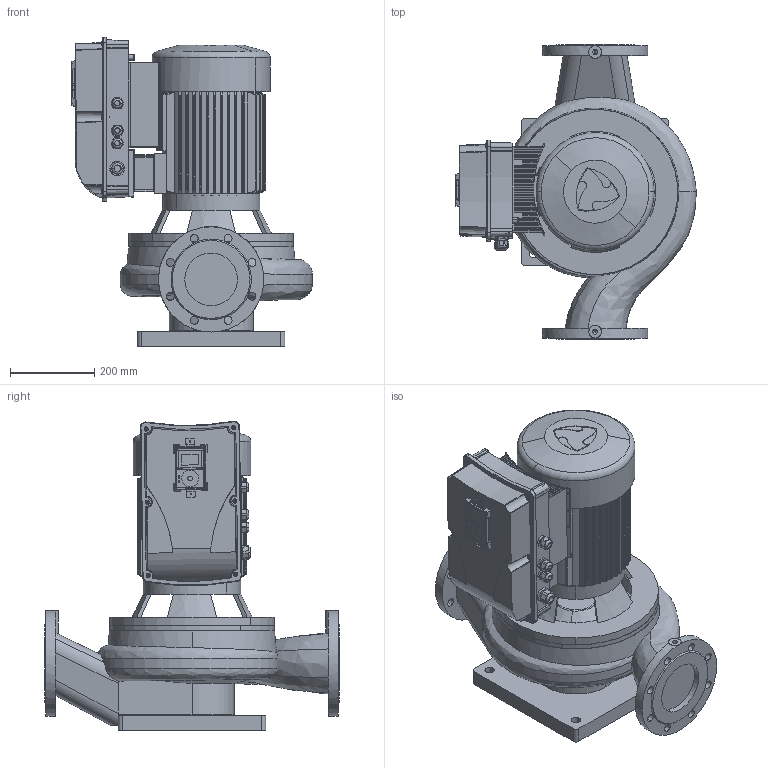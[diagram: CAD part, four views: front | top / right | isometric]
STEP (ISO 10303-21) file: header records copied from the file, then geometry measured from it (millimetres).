
FILE_DESCRIPTION(('STEP AP214'),'1');
FILE_NAME('export.stp','2018-06-01T13:33:37',(' '),(' '),'Spatial InterOp 3D',' ',' ');
FILE_SCHEMA(('AUTOMOTIVE_DESIGN { 1 0 10303 214 1 1 1 1 }'));
Length unit declared in the file: millimetre
Products named in the file (27): W_ALP11284550KPVS; V_EKF31OKN132133; V_TLL100SAL1202; V_PPALP1128; PP_ALP1128_kesken; Tukijalka_ALP1128; V_MKP133_VS; RU_OKN_133; TSUOJA_OKN_132_133; Vacon_MS3; P101415; P101409; P101462; Piirilevyn_pala; A2004-2-4-LP-N-R; P101414; Vacon_Display; CAD-3D-VACON-M100-Display.sldasm; Vacon_display_pla; Vacon_display_scr; DIN_7985-M5x10; M20_tiivisteholkk; M25_tiivisteholkk; G43699; DIN_7985-M5x20; DIN_7985-M4x16; SOVITUSPALA
Assembly tree (41 placements, depth 5):
  W_ALP11284550KPVS
    V_EKF31OKN132133
    V_TLL100SAL1202
    V_PPALP1128
      PP_ALP1128_kesken
      Tukijalka_ALP1128
    V_MKP133_VS
      RU_OKN_133
      TSUOJA_OKN_132_133
      Vacon_MS3
        P101415
        P101409
        P101462
          Piirilevyn_pala
          A2004-2-4-LP-N-R  x2
        P101414
        Vacon_Display
          CAD-3D-VACON-M100-Display.sldasm
          Vacon_display_pla
          Vacon_display_scr
        DIN_7985-M5x10  x6
        M20_tiivisteholkk  x3
        M25_tiivisteholkk
        G43699  x2
        DIN_7985-M5x20  x6
        DIN_7985-M4x16
      SOVITUSPALA
      G43699
Bounding box: 570.81 x 700 x 734.96 mm (x, y, z)
Volume: 54580791.4 mm3; surface area: 4216754.4 mm2
Topology: 35 solids, 1508 shells, 3873 faces, 13992 edges, 11684 vertices
Faces by surface type: bspline 1527, plane 1050, cylinder 815, cone 272, torus 166, sphere 43
Entity records: 181071 total; most frequent: CARTESIAN_POINT 69357, ORIENTED_EDGE 17864, EDGE_CURVE 12754, VERTEX_POINT 10933, DIRECTION 10228, B_SPLINE_CURVE_WITH_KNOTS 6855, AXIS2_PLACEMENT_3D 3885, STYLED_ITEM 3851
